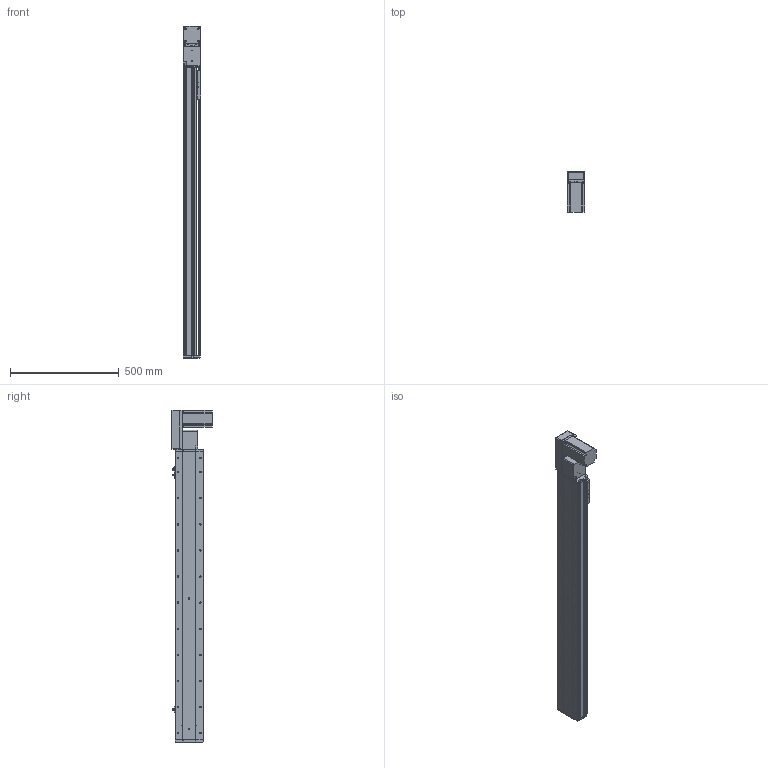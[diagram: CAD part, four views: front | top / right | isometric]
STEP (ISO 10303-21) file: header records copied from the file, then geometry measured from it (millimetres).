
FILE_DESCRIPTION (( 'STEP AP214' ), '1' );
FILE_NAME ('KSD130B-S1100-MRB-CM.STEP', '2019-09-21T07:01:28', ( '微软用户' ), ( '微软中国' ), 'SwSTEP 2.0', 'SolidWorks 2014', '' );
FILE_SCHEMA (( 'AUTOMOTIVE_DESIGN' ));
Length unit declared in the file: millimetre
Products named in the file (12): 台达ECMA－C20807AS伺服电机; 130宽模组保护罩上下左右折-同步带; 130宽模组马达安装板连板左右折同步带; 覜茼え100遵圉猾敕; U倰嫖萇EEㄜSX672; 130宽盖板半封闭同步带-1100行程; 130宽马达安装板同步带右-改镜向_默认<按加工>; 130宽马达安装板同步带半封闭; 130宽同步带安装座半封闭; 130宽端盖同步带半封闭; 130宽底板半封闭同步带-1100行程; KSD130B-S1100-MRB-CM
Assembly tree (13 placements, depth 2):
  KSD130B-S1100-MRB-CM
    130宽底板半封闭同步带-1100行程
    130宽端盖同步带半封闭
    130宽同步带安装座半封闭
    130宽马达安装板同步带半封闭
    130宽马达安装板同步带右-改镜向_默认<按加工>
    130宽盖板半封闭同步带-1100行程
    U倰嫖萇EEㄜSX672  x3
    覜茼え100遵圉猾敕
    130宽模组马达安装板连板左右折同步带
    130宽模组保护罩上下左右折-同步带
    台达ECMA－C20807AS伺服电机
Bounding box: 81 x 184.8 x 1527 mm (x, y, z)
Volume: 5257339.6 mm3; surface area: 1444765.2 mm2
Topology: 14 solids, 14 shells, 1569 faces, 4501 edges, 2871 vertices
Faces by surface type: cylinder 756, plane 630, cone 183
Entity records: 52047 total; most frequent: CARTESIAN_POINT 9764, DIRECTION 7899, ORIENTED_EDGE 7622, EDGE_CURVE 3811, AXIS2_PLACEMENT_3D 2886, VERTEX_POINT 2495, LINE 2127, VECTOR 2127
